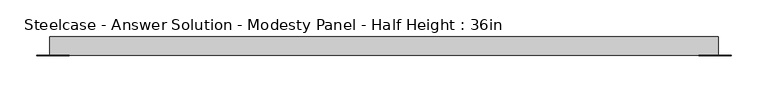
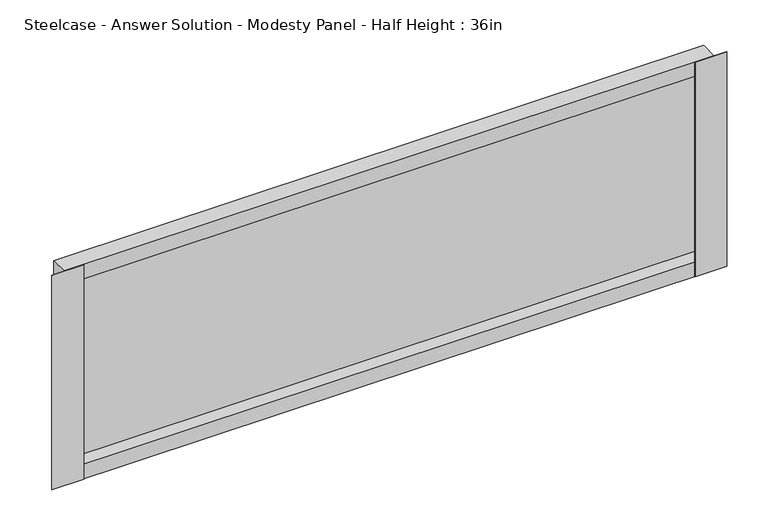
"""IFC4 building model written with IfcOpenShell, lengths in millimetres: furniture geometry, Steelcase - Answer Solution - Modesty Panel - Half Height : 36in."""

import ifcopenshell
import ifcopenshell.guid

model = None  # the IFC model being written
_history = None  # IfcOwnerHistory: only IFC2X3 demands one
_inside = {}  # id of a spatial element -> (the spatial element, [elements in it])
_under = {}  # id of a project, library or spatial element -> (it, [spatial elements below it])
_declared = {}  # id of a project -> (the project, [libraries it declares])
_typed = {}  # id of a type object -> (the type object, [elements of that type])
_made_of = {}  # id of a material, layer set ... -> (it, [elements and type objects made of it])


def new_model(schema):
    """Start an empty IFC model of exactly this schema.

    Asked for "IFC4X3", IfcOpenShell would pick the latest addendum, in which some entities
    have other attributes; the version numbers below select the first issue.
    IFC2X3 requires an IfcOwnerHistory on every rooted entity: one is made here for all.
    """
    global model, _history
    if schema == "IFC4X3":
        model = ifcopenshell.file(schema_version=(4, 3, 0, 0))
    else:
        model = ifcopenshell.file(schema=schema)
    _inside.clear()
    _under.clear()
    _declared.clear()
    _typed.clear()
    _made_of.clear()
    _history = None
    if model.schema == "IFC2X3":
        org = make("IfcOrganization", Name="unknown")
        user = make(
            "IfcPersonAndOrganization",
            ThePerson=make("IfcPerson", FamilyName="unknown"),
            TheOrganization=org,
        )
        app = make(
            "IfcApplication",
            ApplicationDeveloper=org,
            Version="unknown",
            ApplicationFullName="unknown",
            ApplicationIdentifier="unknown",
        )
        _history = make(
            "IfcOwnerHistory",
            OwningUser=user,
            OwningApplication=app,
            ChangeAction="ADDED",
            CreationDate=0,
        )
    return model


def make(cls, **values):
    """One entity of the class cls with the attributes given. An attribute that is None is left unset."""
    return model.create_entity(
        cls, **{name: value for name, value in values.items() if value is not None}
    )


def rooted(cls, **values):
    """An entity with a GlobalId (a new one), such as an element, a storey or a relation."""
    return make(cls, GlobalId=ifcopenshell.guid.new(), OwnerHistory=_history, **values)


def si_unit(unit_type, name, prefix=None):
    """IfcSIUnit, for example si_unit("LENGTHUNIT", "METRE", prefix="MILLI")."""
    return make("IfcSIUnit", UnitType=unit_type, Prefix=prefix, Name=name)


def assignment(units):
    """IfcUnitAssignment: the units of a project."""
    return None if units is None else make("IfcUnitAssignment", Units=units)


def point(xyz):
    """IfcCartesianPoint."""
    return None if xyz is None else make("IfcCartesianPoint", Coordinates=xyz)


def direction(xyz):
    """IfcDirection."""
    return None if xyz is None else make("IfcDirection", DirectionRatios=xyz)


def frame(location, z_axis=None, x_axis=None):
    """IfcAxis2Placement3D, a coordinate frame: its origin and axes. An axis left out is left unset."""
    return make(
        "IfcAxis2Placement3D",
        Location=point(location),
        Axis=direction(z_axis),
        RefDirection=direction(x_axis),
    )


def origin():
    """The frame at (0, 0, 0) with its axes left unset."""
    return frame((0.0, 0.0, 0.0))


def place(relative_to, where):
    """IfcLocalPlacement: puts the frame where relative to a parent placement (None: the world)."""
    return make(
        "IfcLocalPlacement", PlacementRelTo=relative_to, RelativePlacement=where
    )


def context(
    kind, dimensions, precision=None, world=None, true_north=None, identifier=None
):
    """IfcGeometricRepresentationContext, for example the 3D "Model" context."""
    return make(
        "IfcGeometricRepresentationContext",
        ContextIdentifier=identifier,
        ContextType=kind,
        CoordinateSpaceDimension=dimensions,
        Precision=precision,
        WorldCoordinateSystem=world,
        TrueNorth=true_north,
    )


def project(units=None, contexts=None):
    """IfcProject with its units and contexts."""
    return rooted(
        "IfcProject",
        Name="project",
        RepresentationContexts=contexts,
        UnitsInContext=assignment(units),
    )


def spatial(cls, under=None, at=None, **own):
    """A site, building, storey or space (cls), placed at a placement, below another one or the project."""
    s = rooted(cls, ObjectPlacement=at, **own)
    if under is not None:
        _under.setdefault(under.id(), (under, []))[1].append(s)
    return s


def polyline(points):
    """IfcPolyline through the points."""
    return make("IfcPolyline", Points=[point(p) for p in points])


def outline(outer, holes=None, kind="AREA"):
    """IfcArbitraryClosedProfileDef: a profile drawn as a closed curve; with holes, ...WithVoids."""
    if holes is None:
        return make("IfcArbitraryClosedProfileDef", ProfileType=kind, OuterCurve=outer)
    return make(
        "IfcArbitraryProfileDefWithVoids",
        ProfileType=kind,
        OuterCurve=outer,
        InnerCurves=holes,
    )


def extrude(swept, where, along, depth):
    """IfcExtrudedAreaSolid: the profile swept, set in the frame where, extruded along a direction by depth."""
    return make(
        "IfcExtrudedAreaSolid",
        SweptArea=swept,
        Position=where,
        ExtrudedDirection=direction(along),
        Depth=depth,
    )


def faces_of(points, faces, orient=None, outer=None):
    """IfcFace entities. A face is a list of loops; a loop is a list of indices into points, from 0.

    orient and outer hold one flag for each loop. By default every Orientation is true, the
    first loop of a face is its IfcFaceOuterBound and the others are IfcFaceBound.
    """
    made = []
    for i, loops in enumerate(faces):
        bounds = []
        for j, loop in enumerate(loops):
            is_outer = j == 0 if outer is None else outer[i][j]
            bounds.append(
                make(
                    "IfcFaceOuterBound" if is_outer else "IfcFaceBound",
                    Bound=make("IfcPolyLoop", Polygon=[points[k] for k in loop]),
                    Orientation=True if orient is None else orient[i][j],
                )
            )
        made.append(make("IfcFace", Bounds=bounds))
    return made


def faceted_brep(points, faces, orient=None, outer=None, voids=None):
    """IfcFacetedBrep: a solid bounded by flat faces; with voids (closed shells), ...WithVoids."""
    shared = [point(p) for p in points]
    hull = make("IfcClosedShell", CfsFaces=faces_of(shared, faces, orient, outer))
    if voids is None:
        return make("IfcFacetedBrep", Outer=hull)
    return make(
        "IfcFacetedBrepWithVoids",
        Outer=hull,
        Voids=[
            make(cls, CfsFaces=faces_of(shared, fs, o, b)) for cls, fs, o, b in voids
        ],
    )


def shape(context_of_items, identifier, shape_type, items):
    """IfcShapeRepresentation: the items that make up one representation, for example the "Body"."""
    return make(
        "IfcShapeRepresentation",
        ContextOfItems=context_of_items,
        RepresentationIdentifier=identifier,
        RepresentationType=shape_type,
        Items=items,
    )


def source(mapping_origin, context_of_items, identifier, shape_type, items):
    """IfcRepresentationMap: a shape defined once, which mapped items show again and again."""
    return make(
        "IfcRepresentationMap",
        MappingOrigin=mapping_origin,
        MappedRepresentation=shape(context_of_items, identifier, shape_type, items),
    )


def transform(
    local_origin,
    x_axis=None,
    y_axis=None,
    z_axis=None,
    scale=None,
    scale2=None,
    scale3=None,
    uniform=True,
):
    """IfcCartesianTransformationOperator3D, or its non-uniform kind. x_axis, y_axis, z_axis: its Axis1, 2, 3."""
    if uniform:
        return make(
            "IfcCartesianTransformationOperator3D",
            Axis1=direction(x_axis),
            Axis2=direction(y_axis),
            LocalOrigin=point(local_origin),
            Scale=scale,
            Axis3=direction(z_axis),
        )
    return make(
        "IfcCartesianTransformationOperator3DnonUniform",
        Axis1=direction(x_axis),
        Axis2=direction(y_axis),
        LocalOrigin=point(local_origin),
        Scale=scale,
        Axis3=direction(z_axis),
        Scale2=scale2,
        Scale3=scale3,
    )


def mapped(mapping_source, mapping_target):
    """IfcMappedItem: shows the shape of a source again, moved by a transform."""
    return make(
        "IfcMappedItem", MappingSource=mapping_source, MappingTarget=mapping_target
    )


def made_of(thing, what):
    """Note that an element or type object is made of a material, layer set ...; save() writes the relation."""
    if what is not None:
        _made_of.setdefault(what.id(), (what, []))[1].append(thing)
    return thing


def element(
    cls,
    number,
    at=None,
    inside=None,
    cuts=None,
    type_object=None,
    material=None,
    context=None,
    identifier="Body",
    shape_type=None,
    held_by="IfcProductDefinitionShape",
    body=None,
    shapes=None,
    **own,
):
    """One element of the class cls, such as IfcWall. Its Tag is "e" and its number.

    at: its placement. inside: the storey or other place that contains it. cuts: it is an
    opening in that element (IfcRelVoidsElement). A single representation is given by context,
    identifier, shape_type and body (its items); several are given by shapes. held_by: the class
    of the entity that holds the representations. save() writes the other relations.
    """
    e = rooted(cls, Tag="e%d" % number, ObjectPlacement=at, **own)
    if body is not None:
        shapes = [shape(context, identifier, shape_type, body)]
    if shapes is not None:
        e.Representation = make(held_by, Representations=shapes)
    if inside is not None:
        _inside.setdefault(inside.id(), (inside, []))[1].append(e)
    if cuts is not None:
        rooted(
            "IfcRelVoidsElement", RelatingBuildingElement=cuts, RelatedOpeningElement=e
        )
    if type_object is not None:
        _typed.setdefault(type_object.id(), (type_object, []))[1].append(e)
    return made_of(e, material)


def aggregate(whole, parts):
    """IfcRelAggregates: a whole, such as a stair, and the parts it consists of."""
    return rooted("IfcRelAggregates", RelatingObject=whole, RelatedObjects=parts)


def save(model, path):
    """Write the relations noted so far, then the file.

    IfcRelAggregates (storeys below a building ...), IfcRelContainedInSpatialStructure (elements
    in a storey), IfcRelDefinesByType, IfcRelAssociatesMaterial and IfcRelDeclares: one each for
    every whole, place, type object, material and project.
    """
    for whole, parts in _under.values():
        aggregate(whole, parts)
    for where, things in _inside.values():
        rooted(
            "IfcRelContainedInSpatialStructure",
            RelatedElements=things,
            RelatingStructure=where,
        )
    for kind, things in _typed.values():
        rooted("IfcRelDefinesByType", RelatedObjects=things, RelatingType=kind)
    for what, things in _made_of.values():
        rooted("IfcRelAssociatesMaterial", RelatedObjects=things, RelatingMaterial=what)
    for by, libraries in _declared.values():
        rooted("IfcRelDeclares", RelatingContext=by, RelatedDefinitions=libraries)
    model.write(path)


def steelcase_answer_solution_modesty_panel_half_height_36in_416d5fb6(model_context):
    return source(origin(), model_context, "Body", "SolidModel", [
        extrude(outline(polyline([(1457.9400478, -14.2668826), (1457.9400478, -15.0593624), (1413.5248254, -15.0593624), (1413.5248254, -14.2668826), (1457.9400478, -14.2668826)])), frame((0.0, 0.0, 17.653), z_axis=(0.0, 0.0, 1.0), x_axis=(1.0, 0.0, 0.0)), (0.0, 0.0, 1.0), 317.5),
        extrude(outline(polyline([(556.9673392, -14.2668826), (556.9673392, -15.0593624), (512.5520826, -15.0593624), (512.5520826, -14.2668826), (556.9673392, -14.2668826)])), frame((0.0, 0.0, 17.653), z_axis=(0.0, 0.0, 1.0), x_axis=(1.0, 0.0, 0.0)), (0.0, 0.0, 1.0), 317.5),
        faceted_brep([(530.0780827, 10.9045177, 17.653), (530.0780827, -14.2668826, 17.653), (530.0780827, -14.2668826, 335.153), (530.0780827, 10.9045177, 335.153), (1440.4140827, -14.2668826, 17.653), (1440.4140827, 10.9045177, 17.653), (1440.4140827, 10.9045177, 335.153), (1440.4140827, -14.2668826, 335.153), (1439.6216165, 4.7831174, 39.243), (530.8705628, 4.7831174, 39.243), (530.8705628, -14.2668826, 39.243), (1439.6216165, -14.2668826, 39.243), (530.8705628, -14.2668826, 313.563), (1439.6216165, -14.2668826, 313.563), (530.8705628, 4.7831174, 313.563), (1439.6216165, 4.7831174, 313.563)], [[[0, 1, 2, 3]], [[4, 5, 6, 7]], [[8, 9, 10, 11]], [[0, 3, 6, 5]], [[4, 1, 0, 5]], [[2, 1, 4, 7], [10, 12, 13, 11]], [[3, 2, 7, 6]], [[14, 15, 13, 12]], [[9, 8, 15, 14]], [[12, 10, 9, 14]], [[11, 13, 15, 8]]]),
    ])


if __name__ == "__main__":
    model = new_model("IFC4")
    model_context = context("Model", 3, world=origin())
    ifc_project = project(units=[si_unit("LENGTHUNIT", "METRE", prefix="MILLI")], contexts=[model_context])
    site = spatial("IfcSite", under=ifc_project)
    building = spatial("IfcBuilding", under=site)
    placement = place(None, origin())
    steelcase_answer_solution_modesty_panel_half_height_36in_shape = steelcase_answer_solution_modesty_panel_half_height_36in_416d5fb6(model_context)
    element("IfcFurniture", 1, ObjectType="Steelcase - Answer Solution - Modesty Panel - Half Height : 36in", at=placement, inside=building, context=model_context, shape_type="MappedRepresentation", body=[
        mapped(steelcase_answer_solution_modesty_panel_half_height_36in_shape, transform((0.0, 0.0, 0.0), x_axis=(1.0, 0.0, 0.0), y_axis=(0.0, 1.0, 0.0), z_axis=(0.0, 0.0, 1.0))),
    ])
    save(model, "model.ifc")
